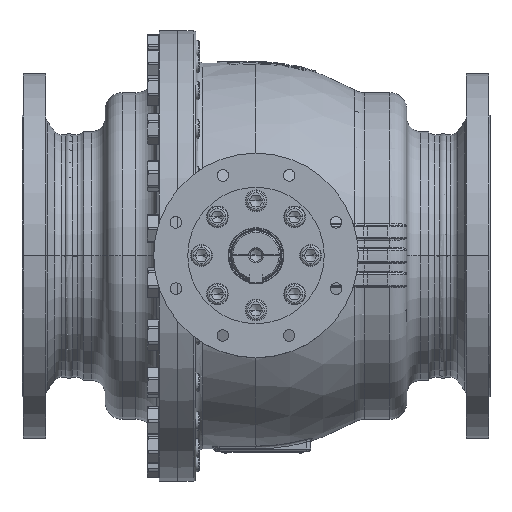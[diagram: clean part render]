
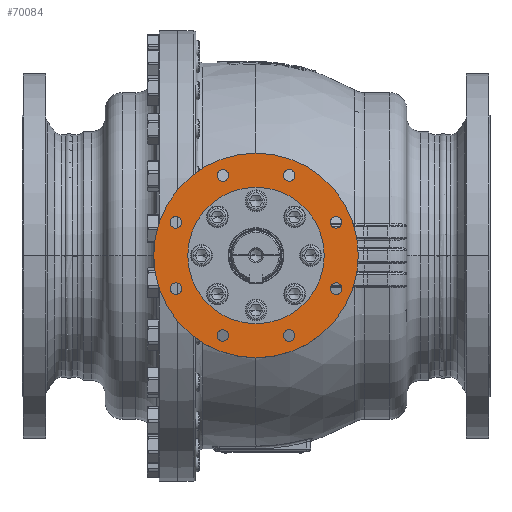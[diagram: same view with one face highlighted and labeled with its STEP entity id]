
A CAD part, top view. The second image highlights one B-rep face of the part: STEP entity #70084.
In plain terms, the highlighted planar face has unit normal (0, 0, 1).
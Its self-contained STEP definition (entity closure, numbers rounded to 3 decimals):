
#3272=CARTESIAN_POINT('',(0.,0.,440.));
#3273=DIRECTION('',(0.,0.,1.));
#3274=DIRECTION('',(1.,0.,0.));
#3275=AXIS2_PLACEMENT_3D('',#3272,#3273,#3274);
#3277=CARTESIAN_POINT('',(0.,0.,440.));
#3278=DIRECTION('',(0.,0.,-1.));
#3279=DIRECTION('',(1.,0.,0.));
#3280=AXIS2_PLACEMENT_3D('',#3277,#3278,#3279);
#3282=CARTESIAN_POINT('',(-117.333,48.601,440.));
#3283=DIRECTION('',(0.,0.,-1.));
#3284=DIRECTION('',(-1.,0.,0.));
#3285=AXIS2_PLACEMENT_3D('',#3282,#3283,#3284);
#3287=CARTESIAN_POINT('',(-117.333,48.601,440.));
#3288=DIRECTION('',(0.,0.,-1.));
#3289=DIRECTION('',(1.,0.,0.));
#3290=AXIS2_PLACEMENT_3D('',#3287,#3288,#3289);
#3292=CARTESIAN_POINT('',(-48.601,117.333,440.));
#3293=DIRECTION('',(0.,0.,-1.));
#3294=DIRECTION('',(-0.707,0.707,0.));
#3295=AXIS2_PLACEMENT_3D('',#3292,#3293,#3294);
#3297=CARTESIAN_POINT('',(-48.601,117.333,440.));
#3298=DIRECTION('',(0.,0.,-1.));
#3299=DIRECTION('',(0.707,-0.707,0.));
#3300=AXIS2_PLACEMENT_3D('',#3297,#3298,#3299);
#3302=CARTESIAN_POINT('',(48.601,117.333,440.));
#3303=DIRECTION('',(0.,0.,-1.));
#3304=DIRECTION('',(0.,1.,0.));
#3305=AXIS2_PLACEMENT_3D('',#3302,#3303,#3304);
#3307=CARTESIAN_POINT('',(48.601,117.333,440.));
#3308=DIRECTION('',(0.,0.,-1.));
#3309=DIRECTION('',(0.,-1.,0.));
#3310=AXIS2_PLACEMENT_3D('',#3307,#3308,#3309);
#3312=CARTESIAN_POINT('',(117.333,48.601,440.));
#3313=DIRECTION('',(0.,0.,-1.));
#3314=DIRECTION('',(0.707,0.707,0.));
#3315=AXIS2_PLACEMENT_3D('',#3312,#3313,#3314);
#3317=CARTESIAN_POINT('',(117.333,48.601,440.));
#3318=DIRECTION('',(0.,0.,-1.));
#3319=DIRECTION('',(-0.707,-0.707,0.));
#3320=AXIS2_PLACEMENT_3D('',#3317,#3318,#3319);
#3322=CARTESIAN_POINT('',(117.333,-48.601,440.));
#3323=DIRECTION('',(0.,0.,-1.));
#3324=DIRECTION('',(1.,0.,0.));
#3325=AXIS2_PLACEMENT_3D('',#3322,#3323,#3324);
#3327=CARTESIAN_POINT('',(117.333,-48.601,440.));
#3328=DIRECTION('',(0.,0.,-1.));
#3329=DIRECTION('',(-1.,0.,0.));
#3330=AXIS2_PLACEMENT_3D('',#3327,#3328,#3329);
#3332=CARTESIAN_POINT('',(48.601,-117.333,440.));
#3333=DIRECTION('',(0.,0.,-1.));
#3334=DIRECTION('',(0.707,-0.707,0.));
#3335=AXIS2_PLACEMENT_3D('',#3332,#3333,#3334);
#3337=CARTESIAN_POINT('',(48.601,-117.333,440.));
#3338=DIRECTION('',(0.,0.,-1.));
#3339=DIRECTION('',(-0.707,0.707,0.));
#3340=AXIS2_PLACEMENT_3D('',#3337,#3338,#3339);
#3342=CARTESIAN_POINT('',(-48.601,-117.333,440.));
#3343=DIRECTION('',(0.,0.,-1.));
#3344=DIRECTION('',(0.,-1.,0.));
#3345=AXIS2_PLACEMENT_3D('',#3342,#3343,#3344);
#3347=CARTESIAN_POINT('',(-48.601,-117.333,440.));
#3348=DIRECTION('',(0.,0.,-1.));
#3349=DIRECTION('',(0.,1.,0.));
#3350=AXIS2_PLACEMENT_3D('',#3347,#3348,#3349);
#3352=CARTESIAN_POINT('',(-117.333,-48.601,440.));
#3353=DIRECTION('',(0.,0.,-1.));
#3354=DIRECTION('',(-0.707,-0.707,0.));
#3355=AXIS2_PLACEMENT_3D('',#3352,#3353,#3354);
#3357=CARTESIAN_POINT('',(-117.333,-48.601,440.));
#3358=DIRECTION('',(0.,0.,-1.));
#3359=DIRECTION('',(0.707,0.707,0.));
#3360=AXIS2_PLACEMENT_3D('',#3357,#3358,#3359);
#3366=CARTESIAN_POINT('',(0.,0.,440.));
#3367=DIRECTION('',(0.,0.,-1.));
#3368=DIRECTION('',(1.,0.,0.));
#3369=AXIS2_PLACEMENT_3D('',#3366,#3367,#3368);
#3375=CARTESIAN_POINT('',(0.,0.,440.));
#3376=DIRECTION('',(0.,0.,1.));
#3377=DIRECTION('',(1.,0.,0.));
#3378=AXIS2_PLACEMENT_3D('',#3375,#3376,#3377);
#65634=CARTESIAN_POINT('',(100.,0.,440.));
#65636=VERTEX_POINT('',#65634);
#65638=CARTESIAN_POINT('',(-100.,0.,440.));
#65640=VERTEX_POINT('',#65638);
#65710=CARTESIAN_POINT('',(-125.833,48.601,440.));
#65711=CARTESIAN_POINT('',(-108.833,48.601,440.));
#65712=VERTEX_POINT('',#65710);
#65713=VERTEX_POINT('',#65711);
#65716=CARTESIAN_POINT('',(-54.611,123.343,440.));
#65717=CARTESIAN_POINT('',(-42.59,111.322,440.));
#65718=VERTEX_POINT('',#65716);
#65719=VERTEX_POINT('',#65717);
#65722=CARTESIAN_POINT('',(48.601,125.833,440.));
#65723=CARTESIAN_POINT('',(48.601,108.833,440.));
#65724=VERTEX_POINT('',#65722);
#65725=VERTEX_POINT('',#65723);
#65728=CARTESIAN_POINT('',(123.343,54.611,440.));
#65729=CARTESIAN_POINT('',(111.322,42.59,440.));
#65730=VERTEX_POINT('',#65728);
#65731=VERTEX_POINT('',#65729);
#65743=CARTESIAN_POINT('',(150.,0.,440.));
#65745=VERTEX_POINT('',#65743);
#65747=CARTESIAN_POINT('',(-150.,0.,440.));
#65749=VERTEX_POINT('',#65747);
#65758=CARTESIAN_POINT('',(125.833,-48.601,440.));
#65759=CARTESIAN_POINT('',(108.833,-48.601,440.));
#65760=VERTEX_POINT('',#65758);
#65761=VERTEX_POINT('',#65759);
#65766=CARTESIAN_POINT('',(54.611,-123.343,440.));
#65767=CARTESIAN_POINT('',(42.59,-111.322,440.));
#65768=VERTEX_POINT('',#65766);
#65769=VERTEX_POINT('',#65767);
#65774=CARTESIAN_POINT('',(-48.601,-125.833,440.));
#65775=CARTESIAN_POINT('',(-48.601,-108.833,440.));
#65776=VERTEX_POINT('',#65774);
#65777=VERTEX_POINT('',#65775);
#65782=CARTESIAN_POINT('',(-123.343,-54.611,440.));
#65783=CARTESIAN_POINT('',(-111.322,-42.59,440.));
#65784=VERTEX_POINT('',#65782);
#65785=VERTEX_POINT('',#65783);
#70021=CARTESIAN_POINT('',(0.,0.,440.));
#70022=DIRECTION('',(0.,0.,1.));
#70023=DIRECTION('',(1.,0.,0.));
#70024=AXIS2_PLACEMENT_3D('',#70021,#70022,#70023);
#70025=PLANE('',#70024);
#70026=ORIENTED_EDGE('',*,*,#70014,.F.);
#70027=ORIENTED_EDGE('',*,*,#70003,.T.);
#70028=EDGE_LOOP('',(#70026,#70027));
#70029=FACE_OUTER_BOUND('',#70028,.F.);
#70031=ORIENTED_EDGE('',*,*,#70030,.F.);
#70033=ORIENTED_EDGE('',*,*,#70032,.T.);
#70034=EDGE_LOOP('',(#70031,#70033));
#70035=FACE_BOUND('',#70034,.F.);
#70037=ORIENTED_EDGE('',*,*,#70036,.F.);
#70039=ORIENTED_EDGE('',*,*,#70038,.F.);
#70040=EDGE_LOOP('',(#70037,#70039));
#70041=FACE_BOUND('',#70040,.F.);
#70043=ORIENTED_EDGE('',*,*,#70042,.F.);
#70045=ORIENTED_EDGE('',*,*,#70044,.F.);
#70046=EDGE_LOOP('',(#70043,#70045));
#70047=FACE_BOUND('',#70046,.F.);
#70049=ORIENTED_EDGE('',*,*,#70048,.F.);
#70051=ORIENTED_EDGE('',*,*,#70050,.F.);
#70052=EDGE_LOOP('',(#70049,#70051));
#70053=FACE_BOUND('',#70052,.F.);
#70055=ORIENTED_EDGE('',*,*,#70054,.F.);
#70057=ORIENTED_EDGE('',*,*,#70056,.F.);
#70058=EDGE_LOOP('',(#70055,#70057));
#70059=FACE_BOUND('',#70058,.F.);
#70061=ORIENTED_EDGE('',*,*,#70060,.F.);
#70063=ORIENTED_EDGE('',*,*,#70062,.F.);
#70064=EDGE_LOOP('',(#70061,#70063));
#70065=FACE_BOUND('',#70064,.F.);
#70067=ORIENTED_EDGE('',*,*,#70066,.F.);
#70069=ORIENTED_EDGE('',*,*,#70068,.F.);
#70070=EDGE_LOOP('',(#70067,#70069));
#70071=FACE_BOUND('',#70070,.F.);
#70073=ORIENTED_EDGE('',*,*,#70072,.F.);
#70075=ORIENTED_EDGE('',*,*,#70074,.F.);
#70076=EDGE_LOOP('',(#70073,#70075));
#70077=FACE_BOUND('',#70076,.F.);
#70079=ORIENTED_EDGE('',*,*,#70078,.F.);
#70081=ORIENTED_EDGE('',*,*,#70080,.F.);
#70082=EDGE_LOOP('',(#70079,#70081));
#70083=FACE_BOUND('',#70082,.F.);
#70084=ADVANCED_FACE('',(#70029,#70035,#70041,#70047,#70053,#70059,#70065,
#70071,#70077,#70083),#70025,.T.);
#3276=CIRCLE('',#3275,150.);
#3281=CIRCLE('',#3280,150.);
#3286=CIRCLE('',#3285,8.5);
#3291=CIRCLE('',#3290,8.5);
#3296=CIRCLE('',#3295,8.5);
#3301=CIRCLE('',#3300,8.5);
#3306=CIRCLE('',#3305,8.5);
#3311=CIRCLE('',#3310,8.5);
#3316=CIRCLE('',#3315,8.5);
#3321=CIRCLE('',#3320,8.5);
#3326=CIRCLE('',#3325,8.5);
#3331=CIRCLE('',#3330,8.5);
#3336=CIRCLE('',#3335,8.5);
#3341=CIRCLE('',#3340,8.5);
#3346=CIRCLE('',#3345,8.5);
#3351=CIRCLE('',#3350,8.5);
#3356=CIRCLE('',#3355,8.5);
#3361=CIRCLE('',#3360,8.5);
#3370=CIRCLE('',#3369,100.);
#3379=CIRCLE('',#3378,100.);
#70003=EDGE_CURVE('',#65745,#65749,#3281,.T.);
#70014=EDGE_CURVE('',#65745,#65749,#3276,.T.);
#70030=EDGE_CURVE('',#65636,#65640,#3370,.T.);
#70032=EDGE_CURVE('',#65636,#65640,#3379,.T.);
#70036=EDGE_CURVE('',#65712,#65713,#3286,.T.);
#70038=EDGE_CURVE('',#65713,#65712,#3291,.T.);
#70042=EDGE_CURVE('',#65718,#65719,#3296,.T.);
#70044=EDGE_CURVE('',#65719,#65718,#3301,.T.);
#70048=EDGE_CURVE('',#65724,#65725,#3306,.T.);
#70050=EDGE_CURVE('',#65725,#65724,#3311,.T.);
#70054=EDGE_CURVE('',#65730,#65731,#3316,.T.);
#70056=EDGE_CURVE('',#65731,#65730,#3321,.T.);
#70060=EDGE_CURVE('',#65760,#65761,#3326,.T.);
#70062=EDGE_CURVE('',#65761,#65760,#3331,.T.);
#70066=EDGE_CURVE('',#65768,#65769,#3336,.T.);
#70068=EDGE_CURVE('',#65769,#65768,#3341,.T.);
#70072=EDGE_CURVE('',#65776,#65777,#3346,.T.);
#70074=EDGE_CURVE('',#65777,#65776,#3351,.T.);
#70078=EDGE_CURVE('',#65784,#65785,#3356,.T.);
#70080=EDGE_CURVE('',#65785,#65784,#3361,.T.);
